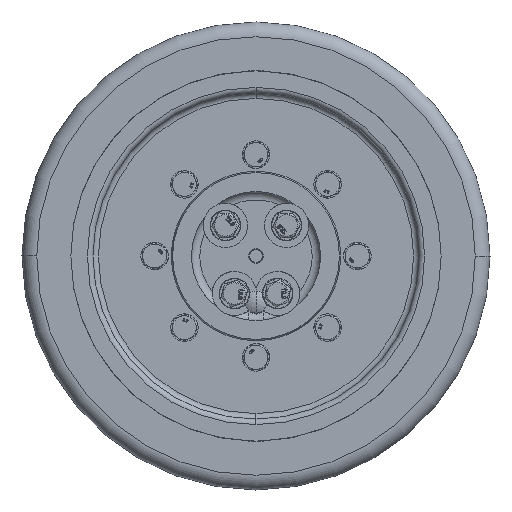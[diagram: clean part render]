
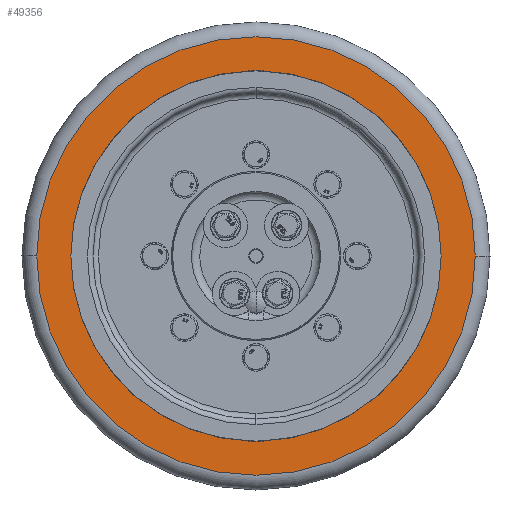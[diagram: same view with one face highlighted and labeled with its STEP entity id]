
A CAD part, left-side view. The second image highlights one B-rep face of the part: STEP entity #49356.
In plain terms, the highlighted planar face has unit normal (-1, 0, 0).
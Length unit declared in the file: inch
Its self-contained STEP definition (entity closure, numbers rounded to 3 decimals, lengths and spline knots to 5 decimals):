
#1186 = CARTESIAN_POINT ( 'NONE',  ( -2.12598, -3.9563, 0. ) ) ;
#2624 = EDGE_CURVE ( 'NONE', #61176, #59218, #75758, .T. ) ;
#6731 = DIRECTION ( 'NONE',  ( -1., 0., 0. ) ) ;
#7870 = DIRECTION ( 'NONE',  ( -1., 0., 0. ) ) ;
#7897 = CARTESIAN_POINT ( 'NONE',  ( -2.12598, -4.68504, 0. ) ) ;
#11182 = EDGE_LOOP ( 'NONE', ( #21200, #67170 ) ) ;
#12662 = CARTESIAN_POINT ( 'NONE',  ( -2.12598, 0., 0. ) ) ;
#13331 = EDGE_CURVE ( 'NONE', #59218, #61176, #60833, .T. ) ;
#14077 = PLANE ( 'NONE',  #61286 ) ;
#16593 = AXIS2_PLACEMENT_3D ( 'NONE', #12662, #58152, #84439 ) ;
#21200 = ORIENTED_EDGE ( 'NONE', *, *, #62354, .T. ) ;
#21463 = FACE_OUTER_BOUND ( 'NONE', #11182, .T. ) ;
#24373 = CARTESIAN_POINT ( 'NONE',  ( -2.12598, 0., 0. ) ) ;
#26309 = DIRECTION ( 'NONE',  ( 1., 0., 0. ) ) ;
#32984 = DIRECTION ( 'NONE',  ( 0., 1., 0. ) ) ;
#34588 = DIRECTION ( 'NONE',  ( 0., -1., 0. ) ) ;
#35263 = AXIS2_PLACEMENT_3D ( 'NONE', #24373, #51121, #77742 ) ;
#35664 = VERTEX_POINT ( 'NONE', #43534 ) ;
#40690 = VERTEX_POINT ( 'NONE', #65077 ) ;
#42046 = CARTESIAN_POINT ( 'NONE',  ( -2.12598, 0., 0. ) ) ;
#43534 = CARTESIAN_POINT ( 'NONE',  ( -2.12598, -4.68504, 0. ) ) ;
#47341 = FACE_BOUND ( 'NONE', #82997, .T. ) ;
#48342 = AXIS2_PLACEMENT_3D ( 'NONE', #42046, #7870, #62111 ) ;
#49356 = ADVANCED_FACE ( 'NONE', ( #47341, #21463 ), #14077, .F. ) ;
#51121 = DIRECTION ( 'NONE',  ( -1., 0., 0. ) ) ;
#54333 = CIRCLE ( 'NONE', #16593, 4.68504 ) ;
#57664 = AXIS2_PLACEMENT_3D ( 'NONE', #79799, #6731, #32984 ) ;
#58152 = DIRECTION ( 'NONE',  ( -1., 0., 0. ) ) ;
#59218 = VERTEX_POINT ( 'NONE', #72145 ) ;
#60833 = CIRCLE ( 'NONE', #48342, 3.9563 ) ;
#61176 = VERTEX_POINT ( 'NONE', #1186 ) ;
#61286 = AXIS2_PLACEMENT_3D ( 'NONE', #7897, #26309, #34588 ) ;
#62111 = DIRECTION ( 'NONE',  ( 0., 1., 0. ) ) ;
#62354 = EDGE_CURVE ( 'NONE', #40690, #35664, #54333, .T. ) ;
#65077 = CARTESIAN_POINT ( 'NONE',  ( -2.12598, 4.68504, 0. ) ) ;
#65668 = ORIENTED_EDGE ( 'NONE', *, *, #13331, .F. ) ;
#67170 = ORIENTED_EDGE ( 'NONE', *, *, #82746, .T. ) ;
#72145 = CARTESIAN_POINT ( 'NONE',  ( -2.12598, 3.9563, 0. ) ) ;
#75758 = CIRCLE ( 'NONE', #35263, 3.9563 ) ;
#75768 = CIRCLE ( 'NONE', #57664, 4.68504 ) ;
#77742 = DIRECTION ( 'NONE',  ( 0., 1., 0. ) ) ;
#78179 = ORIENTED_EDGE ( 'NONE', *, *, #2624, .F. ) ;
#79799 = CARTESIAN_POINT ( 'NONE',  ( -2.12598, 0., 0. ) ) ;
#82746 = EDGE_CURVE ( 'NONE', #35664, #40690, #75768, .T. ) ;
#82997 = EDGE_LOOP ( 'NONE', ( #65668, #78179 ) ) ;
#84439 = DIRECTION ( 'NONE',  ( 0., 1., 0. ) ) ;
